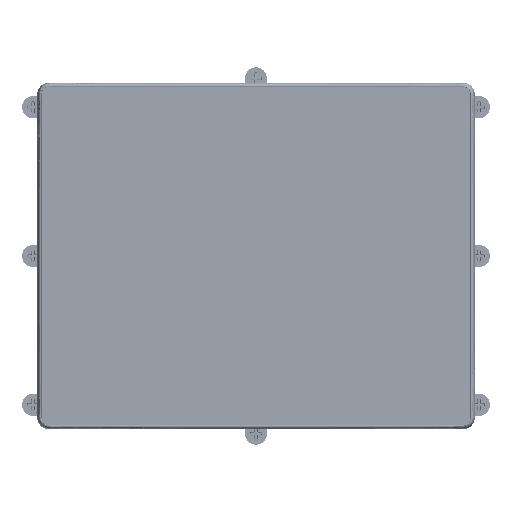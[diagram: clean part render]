
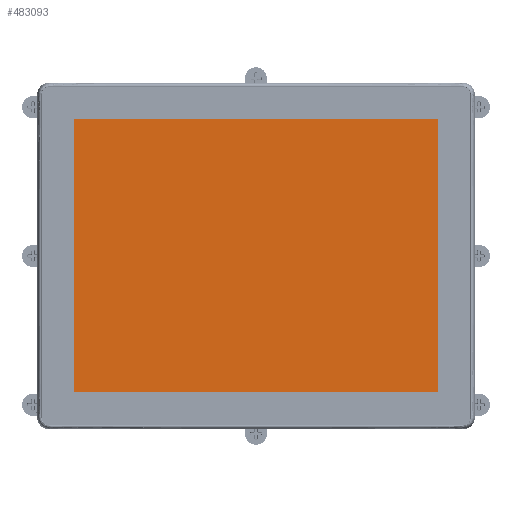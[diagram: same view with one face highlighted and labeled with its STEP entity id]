
A CAD part, top view. The second image highlights one B-rep face of the part: STEP entity #483093.
In plain terms, the highlighted planar face has unit normal (0, 0, 1).
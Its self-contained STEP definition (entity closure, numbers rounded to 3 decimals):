
#146871=DIRECTION('',(0.,-1.,0.));
#146872=VECTOR('',#146871,185.32);
#146873=CARTESIAN_POINT('',(-123.38,92.66,4.79));
#146874=LINE('',#146873,#146872);
#146891=DIRECTION('',(-1.,0.,0.));
#146892=VECTOR('',#146891,246.76);
#146893=CARTESIAN_POINT('',(123.38,92.66,4.79));
#146894=LINE('',#146893,#146892);
#146899=DIRECTION('',(0.,1.,0.));
#146900=VECTOR('',#146899,185.32);
#146901=CARTESIAN_POINT('',(123.38,-92.66,4.79));
#146902=LINE('',#146901,#146900);
#146911=DIRECTION('',(1.,0.,0.));
#146912=VECTOR('',#146911,246.76);
#146913=CARTESIAN_POINT('',(-123.38,-92.66,4.79));
#146914=LINE('',#146913,#146912);
#190706=CARTESIAN_POINT('',(-123.38,92.66,4.79));
#190708=VERTEX_POINT('',#190706);
#190711=CARTESIAN_POINT('',(-123.38,-92.66,4.79));
#190713=VERTEX_POINT('',#190711);
#190715=CARTESIAN_POINT('',(123.38,-92.66,4.79));
#190717=VERTEX_POINT('',#190715);
#190719=CARTESIAN_POINT('',(123.38,92.66,4.79));
#190721=VERTEX_POINT('',#190719);
#483082=CARTESIAN_POINT('',(0.,0.,4.79));
#483083=DIRECTION('',(0.,0.,1.));
#483084=DIRECTION('',(1.,0.,0.));
#483085=AXIS2_PLACEMENT_3D('',#483082,#483083,#483084);
#483086=PLANE('',#483085);
#483087=ORIENTED_EDGE('',*,*,#483005,.F.);
#483088=ORIENTED_EDGE('',*,*,#483029,.F.);
#483089=ORIENTED_EDGE('',*,*,#483048,.F.);
#483090=ORIENTED_EDGE('',*,*,#483068,.F.);
#483091=EDGE_LOOP('',(#483087,#483088,#483089,#483090));
#483092=FACE_OUTER_BOUND('',#483091,.F.);
#483093=ADVANCED_FACE('',(#483092),#483086,.T.);
#483005=EDGE_CURVE('',#190708,#190713,#146874,.T.);
#483029=EDGE_CURVE('',#190721,#190708,#146894,.T.);
#483048=EDGE_CURVE('',#190717,#190721,#146902,.T.);
#483068=EDGE_CURVE('',#190713,#190717,#146914,.T.);
